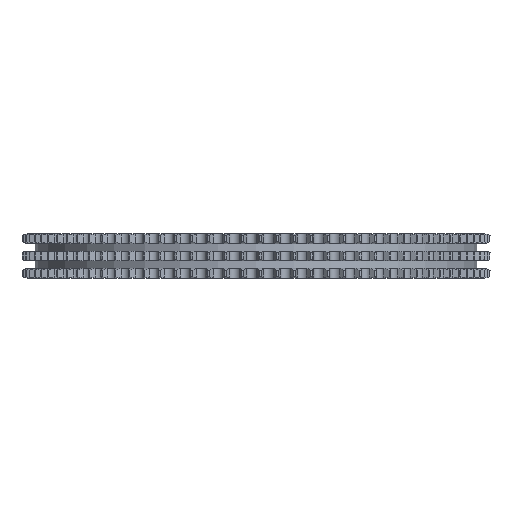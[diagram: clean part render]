
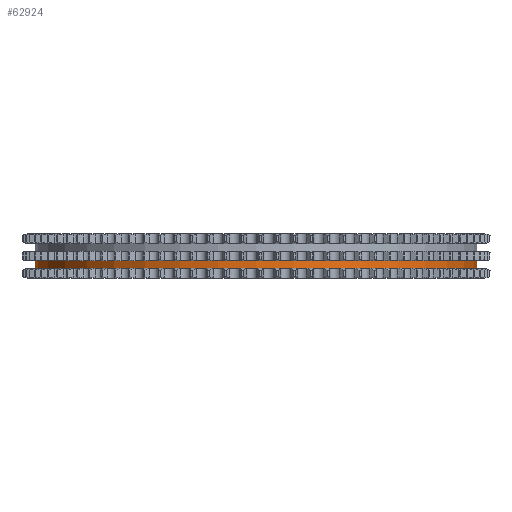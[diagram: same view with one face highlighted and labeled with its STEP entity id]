
A CAD part, left-side view. The second image highlights one B-rep face of the part: STEP entity #62924.
In plain terms, the highlighted cylindrical face has radius 246.77 mm (diameter 493.541 mm), a partial arc.
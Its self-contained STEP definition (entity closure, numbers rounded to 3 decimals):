
#11776=CARTESIAN_POINT('',(0.,0.,-13.8));
#11777=DIRECTION('',(0.,0.,1.));
#11778=DIRECTION('',(0.,1.,0.));
#11779=AXIS2_PLACEMENT_3D('',#11776,#11777,#11778);
#12464=DIRECTION('',(0.,0.,-1.));
#12465=VECTOR('',#12464,8.25);
#12466=CARTESIAN_POINT('',(0.,246.77,-5.55));
#12467=LINE('',#12466,#12465);
#12471=CARTESIAN_POINT('',(0.,0.,-5.55));
#12472=DIRECTION('',(0.,0.,1.));
#12473=DIRECTION('',(0.,1.,0.));
#12474=AXIS2_PLACEMENT_3D('',#12471,#12472,#12473);
#12479=DIRECTION('',(0.,0.,-1.));
#12480=VECTOR('',#12479,8.25);
#12481=CARTESIAN_POINT('',(0.,-246.77,-5.55));
#12482=LINE('',#12481,#12480);
#49275=CARTESIAN_POINT('',(0.,246.77,-5.55));
#49276=CARTESIAN_POINT('',(0.,246.77,-13.8));
#49277=VERTEX_POINT('',#49275);
#49278=VERTEX_POINT('',#49276);
#49279=CARTESIAN_POINT('',(0.,-246.77,-5.55));
#49280=CARTESIAN_POINT('',(0.,-246.77,-13.8));
#49281=VERTEX_POINT('',#49279);
#49282=VERTEX_POINT('',#49280);
#62910=CARTESIAN_POINT('',(0.,0.,15.18));
#62911=DIRECTION('',(0.,0.,-1.));
#62912=DIRECTION('',(0.,-1.,0.));
#62913=AXIS2_PLACEMENT_3D('',#62910,#62911,#62912);
#62914=CYLINDRICAL_SURFACE('',#62913,246.77);
#62916=ORIENTED_EDGE('',*,*,#62915,.F.);
#62918=ORIENTED_EDGE('',*,*,#62917,.T.);
#62920=ORIENTED_EDGE('',*,*,#62919,.T.);
#62921=ORIENTED_EDGE('',*,*,#62903,.F.);
#62922=EDGE_LOOP('',(#62916,#62918,#62920,#62921));
#62923=FACE_OUTER_BOUND('',#62922,.F.);
#62924=ADVANCED_FACE('',(#62923),#62914,.T.);
#11780=CIRCLE('',#11779,246.77);
#12475=CIRCLE('',#12474,246.77);
#62903=EDGE_CURVE('',#49278,#49282,#11780,.T.);
#62915=EDGE_CURVE('',#49277,#49278,#12467,.T.);
#62917=EDGE_CURVE('',#49277,#49281,#12475,.T.);
#62919=EDGE_CURVE('',#49281,#49282,#12482,.T.);
